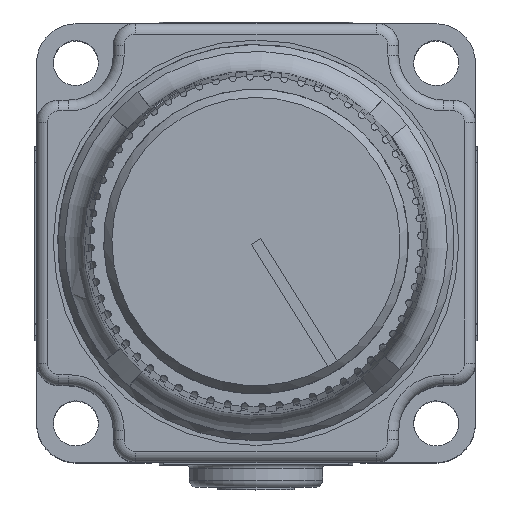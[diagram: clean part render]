
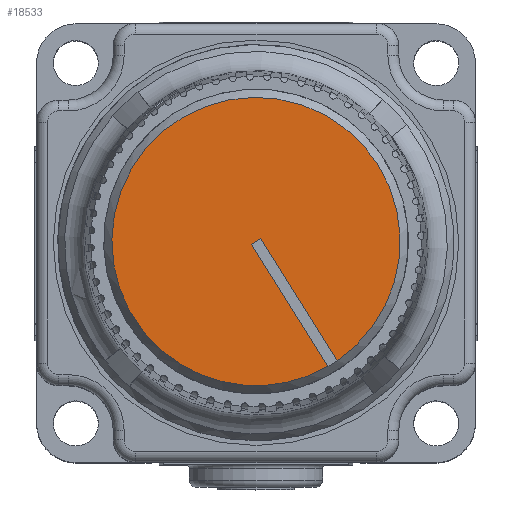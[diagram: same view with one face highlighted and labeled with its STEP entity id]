
A CAD part, top view. The second image highlights one B-rep face of the part: STEP entity #18533.
In plain terms, the highlighted planar face has unit normal (0, 0, 1).
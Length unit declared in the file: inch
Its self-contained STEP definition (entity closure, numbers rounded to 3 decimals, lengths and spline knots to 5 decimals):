
#1923=LINE('',#36205,#3190);
#1928=LINE('',#36224,#3195);
#1931=LINE('',#36229,#3198);
#3190=VECTOR('',#24839,0.3937);
#3195=VECTOR('',#24850,0.3937);
#3198=VECTOR('',#24855,0.3937);
#4423=FACE_OUTER_BOUND('',#5530,.T.);
#5530=EDGE_LOOP('',(#14952,#14953,#14954,#14955,#14956));
#6390=CIRCLE('',#20353,0.4);
#6391=CIRCLE('',#20354,0.4);
#7967=VERTEX_POINT('',#36203);
#7968=VERTEX_POINT('',#36204);
#7971=VERTEX_POINT('',#36217);
#7973=VERTEX_POINT('',#36223);
#7975=VERTEX_POINT('',#36233);
#10340=EDGE_CURVE('',#7967,#7968,#1923,.T.);
#10347=EDGE_CURVE('',#7973,#7971,#1928,.T.);
#10350=EDGE_CURVE('',#7968,#7973,#1931,.T.);
#10352=EDGE_CURVE('',#7971,#7975,#6390,.T.);
#10353=EDGE_CURVE('',#7975,#7967,#6391,.T.);
#14952=ORIENTED_EDGE('',*,*,#10347,.T.);
#14953=ORIENTED_EDGE('',*,*,#10352,.T.);
#14954=ORIENTED_EDGE('',*,*,#10353,.T.);
#14955=ORIENTED_EDGE('',*,*,#10340,.T.);
#14956=ORIENTED_EDGE('',*,*,#10350,.T.);
#16630=PLANE('',#20357);
#18533=ADVANCED_FACE('',(#4423),#16630,.T.);
#20353=AXIS2_PLACEMENT_3D('',#36234,#24861,#24862);
#20354=AXIS2_PLACEMENT_3D('',#36235,#24863,#24864);
#20357=AXIS2_PLACEMENT_3D('',#36241,#24870,#24871);
#24839=DIRECTION('',(-0.532,0.847,0.));
#24850=DIRECTION('',(0.532,-0.847,0.));
#24855=DIRECTION('',(0.847,0.532,0.));
#24861=DIRECTION('center_axis',(0.,0.,1.));
#24862=DIRECTION('ref_axis',(0.847,0.532,0.));
#24863=DIRECTION('center_axis',(0.,0.,1.));
#24864=DIRECTION('ref_axis',(0.847,0.532,0.));
#24870=DIRECTION('center_axis',(0.,0.,1.));
#24871=DIRECTION('ref_axis',(1.,0.,0.));
#36203=CARTESIAN_POINT('',(-0.0435,-0.39223,1.8705));
#36204=CARTESIAN_POINT('',(-0.25599,-0.05367,1.8705));
#36205=CARTESIAN_POINT('',(-0.0435,-0.39223,1.8705));
#36217=CARTESIAN_POINT('',(-0.01809,-0.37628,1.8705));
#36223=CARTESIAN_POINT('',(-0.23058,-0.03772,1.8705));
#36224=CARTESIAN_POINT('',(-0.23058,-0.03772,1.8705));
#36229=CARTESIAN_POINT('',(-0.25599,-0.05367,1.8705));
#36233=CARTESIAN_POINT('',(-0.39544,-0.41562,1.8705));
#36234=CARTESIAN_POINT('Origin',(-0.24328,-0.04569,
1.8705));
#36235=CARTESIAN_POINT('Origin',(-0.24328,-0.04569,
1.8705));
#36241=CARTESIAN_POINT('Origin',(-0.59206,-0.26153,
1.8705));
